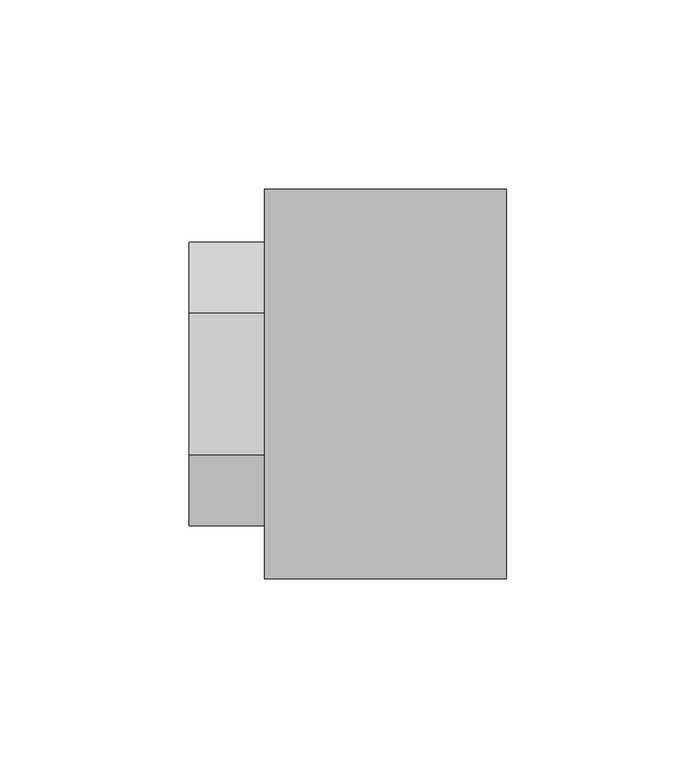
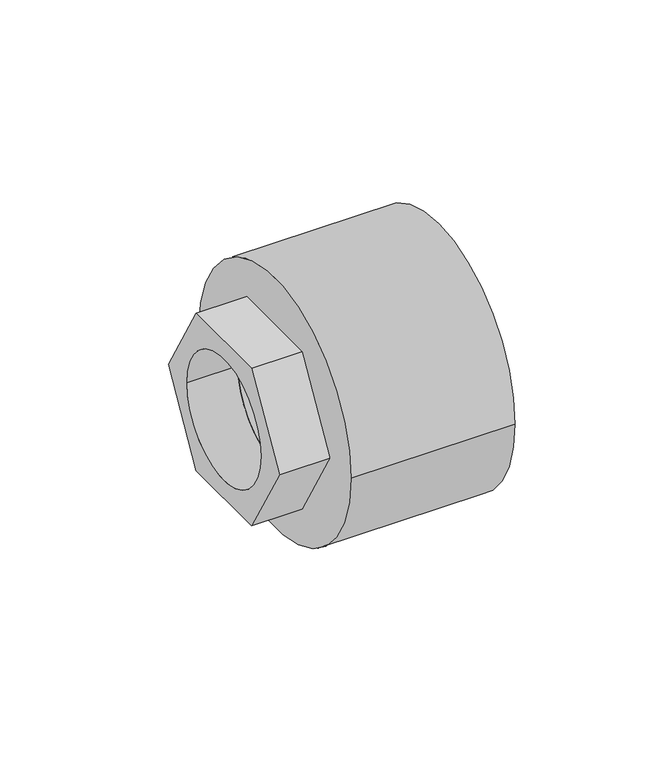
"""IFC4 building model written with IfcOpenShell, lengths in millimetres: pipe fitting geometry, NIRON RED termofusion roscado enlace rosca hembra hexagonal : Estándar."""

from ifc_helpers import new_model, si_unit, frame, origin, place, context, project, spatial, polyline, circle_curve, source, transform, mapped, element, save
from ifc_brep_helpers import plane_surface, cylinder_surface, revolved_surface, advanced_brep


def pipe_fitting_afaa5925(model_context):
    return source(origin(), model_context, "Body", "AdvancedBrep", [
        advanced_brep(
        [(84.0, 51.5, 0.0), (84.0, -51.5, 0.0), (20.0, 51.5, 0.0), (20.0, -51.5, 0.0), (20.0, -25.0, 0.0), (20.0, 25.0, 0.0), (23.7, 25.0, 0.0), (23.7, -25.0, 0.0)],
        [
            (0, 1, circle_curve(frame((84.0, 0.0, 0.0), z_axis=(1.0, 0.0, 0.0), x_axis=(0.0, -1.0, 0.0)), 51.5)),
            (1, 0, circle_curve(frame((84.0, 0.0, 0.0), z_axis=(1.0, 0.0, 0.0), x_axis=(0.0, -1.0, 0.0)), 51.5)),
            (2, 3, circle_curve(frame((20.0, 0.0, 0.0), z_axis=(-1.0, 0.0, 0.0), x_axis=(0.0, -1.0, 0.0)), 51.5)),
            (3, 2, circle_curve(frame((20.0, 0.0, 0.0), z_axis=(-1.0, 0.0, 0.0), x_axis=(0.0, -1.0, 0.0)), 51.5)),
            (4, 5, circle_curve(frame((20.0, 0.0, 0.0), z_axis=(1.0, 0.0, 0.0), x_axis=(0.0, -1.0, 0.0)), 25.0)),
            (5, 4, circle_curve(frame((20.0, 0.0, 0.0), z_axis=(1.0, 0.0, 0.0), x_axis=(0.0, -1.0, 0.0)), 25.0)),
            (1, 3),
            (2, 0),
            (6, 7, circle_curve(frame((23.7, 0.0, 0.0), z_axis=(-1.0, 0.0, 0.0), x_axis=(0.0, -1.0, 0.0)), 25.0)),
            (7, 6, circle_curve(frame((23.7, 0.0, 0.0), z_axis=(-1.0, 0.0, 0.0), x_axis=(0.0, -1.0, 0.0)), 25.0)),
            (6, 5),
            (4, 7),
        ],
        [
            plane_surface(frame((84.0, -51.5, 0.0), z_axis=(1.0, 0.0, 0.0), x_axis=(0.0, 0.0, -1.0))),
            plane_surface(frame((20.0, -51.5, 0.0), z_axis=(-1.0, 0.0, 0.0), x_axis=(0.0, 0.0, 1.0))),
            cylinder_surface(frame((84.0, 0.0, 0.0), z_axis=(-1.0, 0.0, 0.0), x_axis=(0.0, -1.0, 0.0)), 51.5),
            plane_surface(frame((23.7, -25.0, 0.0), z_axis=(-1.0, 0.0, 0.0), x_axis=(0.0, 0.0, -1.0))),
            revolved_surface(polyline([(20.0, -25.0, 0.0), (23.7, -25.0, 0.0)]), (23.7, 0.0, 0.0), (-1.0, 0.0, 0.0)),
        ],
        [
            (0, [[1, 2]]),
            (1, [[3, 4], [5, 6]]),
            (2, [[-2, 7, -3, 8]]),
            (2, [[-1, -8, -4, -7]]),
            (3, [[9, 10]]),
            (4, [[-9, 11, -5, 12]]),
            (4, [[-10, -12, -6, -11]]),
        ],
    ),
        advanced_brep(
        [(45.0, -18.7638837, -32.5), (45.0, 18.7638837, -32.5), (45.0, 37.5277675, 0.0), (45.0, 18.7638837, 32.5), (45.0, -18.7638837, 32.5), (45.0, -37.5277675, 0.0), (0.0, -18.7638837, -32.5), (0.0, -37.5277675, 0.0), (0.0, -18.7638837, 32.5), (0.0, 18.7638837, 32.5), (0.0, 37.5277675, 0.0), (0.0, 18.7638837, -32.5), (0.0, -25.0, 0.0), (0.0, 25.0, 0.0), (23.7, 25.0, 0.0), (23.7, -25.0, 0.0)],
        [
            (0, 1),
            (1, 2),
            (2, 3),
            (3, 4),
            (4, 5),
            (5, 0),
            (6, 7),
            (7, 8),
            (8, 9),
            (9, 10),
            (10, 11),
            (11, 6),
            (12, 13, circle_curve(frame((0.0, 0.0, 0.0), z_axis=(1.0, 0.0, 0.0), x_axis=(0.0, -1.0, 0.0)), 25.0)),
            (13, 12, circle_curve(frame((0.0, 0.0, 0.0), z_axis=(1.0, 0.0, 0.0), x_axis=(0.0, -1.0, 0.0)), 25.0)),
            (0, 6),
            (11, 1),
            (10, 2),
            (9, 3),
            (8, 4),
            (7, 5),
            (14, 15, circle_curve(frame((23.7, 0.0, 0.0), z_axis=(-1.0, 0.0, 0.0), x_axis=(0.0, -1.0, 0.0)), 25.0)),
            (15, 14, circle_curve(frame((23.7, 0.0, 0.0), z_axis=(-1.0, 0.0, 0.0), x_axis=(0.0, -1.0, 0.0)), 25.0)),
            (14, 13),
            (12, 15),
        ],
        [
            plane_surface(frame((45.0, 0.0, 0.0), z_axis=(1.0, 0.0, 0.0), x_axis=(0.0, 0.0, 1.0))),
            plane_surface(frame((0.0, 0.0, 0.0), z_axis=(-1.0, 0.0, 0.0), x_axis=(0.0, 0.0, 1.0))),
            plane_surface(frame((45.0, -18.7638837, -32.5), z_axis=(0.0, 0.0, -1.0), x_axis=(-1.0, 0.0, 0.0))),
            plane_surface(frame((45.0, 18.7638837, -32.5), z_axis=(0.0, 0.8660254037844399, -0.49999999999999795), x_axis=(-1.0, 0.0, 0.0))),
            plane_surface(frame((45.0, 37.5277675, 0.0), z_axis=(0.0, 0.8660254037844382, 0.5000000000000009), x_axis=(-1.0, 0.0, 0.0))),
            plane_surface(frame((45.0, 18.7638837, 32.5), z_axis=(0.0, 0.0, 1.0), x_axis=(-1.0, 0.0, 0.0))),
            plane_surface(frame((45.0, -18.7638837, 32.5), z_axis=(0.0, -0.8660254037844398, 0.49999999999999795), x_axis=(-1.0, 0.0, 0.0))),
            plane_surface(frame((45.0, -37.5277675, 0.0), z_axis=(0.0, -0.866025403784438, -0.500000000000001), x_axis=(-1.0, 0.0, 0.0))),
            plane_surface(frame((23.7, -25.0, 0.0), z_axis=(-1.0, 0.0, 0.0), x_axis=(0.0, 0.0, -1.0))),
            revolved_surface(polyline([(0.0, -25.0, 0.0), (23.7, -25.0, 0.0)]), (23.7, 0.0, 0.0), (-1.0, 0.0, 0.0)),
        ],
        [
            (0, [[1, 2, 3, 4, 5, 6]]),
            (1, [[7, 8, 9, 10, 11, 12], [13, 14]]),
            (2, [[-1, 15, -12, 16]]),
            (3, [[-2, -16, -11, 17]]),
            (4, [[-3, -17, -10, 18]]),
            (5, [[-4, -18, -9, 19]]),
            (6, [[-5, -19, -8, 20]]),
            (7, [[-6, -20, -7, -15]]),
            (8, [[21, 22]]),
            (9, [[-21, 23, -13, 24]]),
            (9, [[-22, -24, -14, -23]]),
        ],
    ),
    ])


if __name__ == "__main__":
    model = new_model("IFC4")
    model_context = context("Model", 3, world=origin())
    ifc_project = project(units=[si_unit("LENGTHUNIT", "METRE", prefix="MILLI")], contexts=[model_context])
    site = spatial("IfcSite", under=ifc_project)
    building = spatial("IfcBuilding", under=site)
    placement = place(None, origin())
    pipe_fitting_shape = pipe_fitting_afaa5925(model_context)
    element("IfcPipeFitting", 1, ObjectType="NIRON RED termofusion roscado enlace rosca hembra hexagonal : Estándar", at=placement, inside=building, context=model_context, shape_type="MappedRepresentation", body=[
        mapped(pipe_fitting_shape, transform((0.0, 0.0, 0.0), x_axis=(1.0, 0.0, 0.0), y_axis=(0.0, 1.0, 0.0), z_axis=(0.0, 0.0, 1.0))),
    ])
    save(model, "model.ifc")
